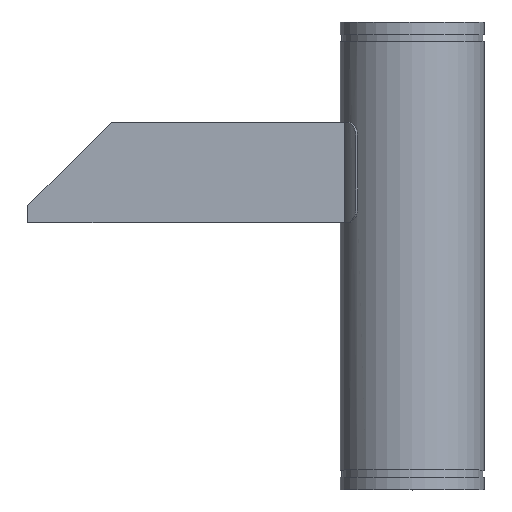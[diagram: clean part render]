
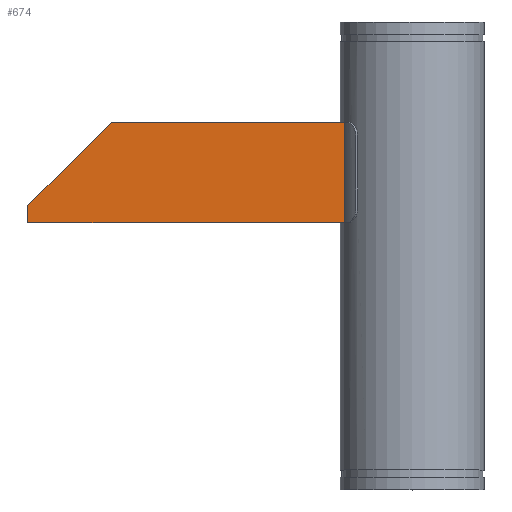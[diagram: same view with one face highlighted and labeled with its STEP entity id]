
A CAD part, top view. The second image highlights one B-rep face of the part: STEP entity #674.
In plain terms, the highlighted planar face has unit normal (0, 0, 1).
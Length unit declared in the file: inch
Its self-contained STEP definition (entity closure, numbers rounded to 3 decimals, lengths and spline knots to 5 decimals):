
#28=PLANE('',#746);
#93=FACE_OUTER_BOUND('',#127,.T.);
#127=EDGE_LOOP('',(#511,#512,#513,#514,#515));
#164=LINE('',#1139,#214);
#181=LINE('',#1197,#231);
#186=LINE('',#1229,#236);
#187=LINE('',#1231,#237);
#188=LINE('',#1232,#238);
#214=VECTOR('',#813,0.3937);
#231=VECTOR('',#848,0.3937);
#236=VECTOR('',#885,0.3937);
#237=VECTOR('',#886,0.3937);
#238=VECTOR('',#887,0.3937);
#278=VERTEX_POINT('',#1136);
#279=VERTEX_POINT('',#1138);
#293=VERTEX_POINT('',#1195);
#304=VERTEX_POINT('',#1228);
#305=VERTEX_POINT('',#1230);
#348=EDGE_CURVE('',#279,#278,#164,.T.);
#369=EDGE_CURVE('',#293,#278,#181,.T.);
#386=EDGE_CURVE('',#293,#304,#186,.T.);
#387=EDGE_CURVE('',#305,#304,#187,.T.);
#388=EDGE_CURVE('',#279,#305,#188,.T.);
#511=ORIENTED_EDGE('',*,*,#348,.T.);
#512=ORIENTED_EDGE('',*,*,#369,.F.);
#513=ORIENTED_EDGE('',*,*,#386,.T.);
#514=ORIENTED_EDGE('',*,*,#387,.F.);
#515=ORIENTED_EDGE('',*,*,#388,.F.);
#674=ADVANCED_FACE('',(#93),#28,.T.);
#746=AXIS2_PLACEMENT_3D('',#1227,#883,#884);
#813=DIRECTION('',(0.,1.,0.));
#848=DIRECTION('',(1.,0.,0.));
#883=DIRECTION('center_axis',(0.,0.,
1.));
#884=DIRECTION('ref_axis',(1.,0.,0.));
#885=DIRECTION('',(-0.707,-0.707,0.));
#886=DIRECTION('',(0.,1.,0.));
#887=DIRECTION('',(-1.,0.,0.));
#1136=CARTESIAN_POINT('',(-4.04508,8.,2.));
#1138=CARTESIAN_POINT('',(-4.04508,2.,2.));
#1139=CARTESIAN_POINT('',(-4.04508,2.,2.));
#1195=CARTESIAN_POINT('',(-18.,8.,2.));
#1197=CARTESIAN_POINT('',(0.,8.,2.));
#1227=CARTESIAN_POINT('Origin',(-23.,2.,2.));
#1228=CARTESIAN_POINT('',(-23.,3.,2.));
#1229=CARTESIAN_POINT('',(-23.25,2.75,2.));
#1230=CARTESIAN_POINT('',(-23.,2.,2.));
#1231=CARTESIAN_POINT('',(-23.,2.,2.));
#1232=CARTESIAN_POINT('',(0.,2.,2.));
